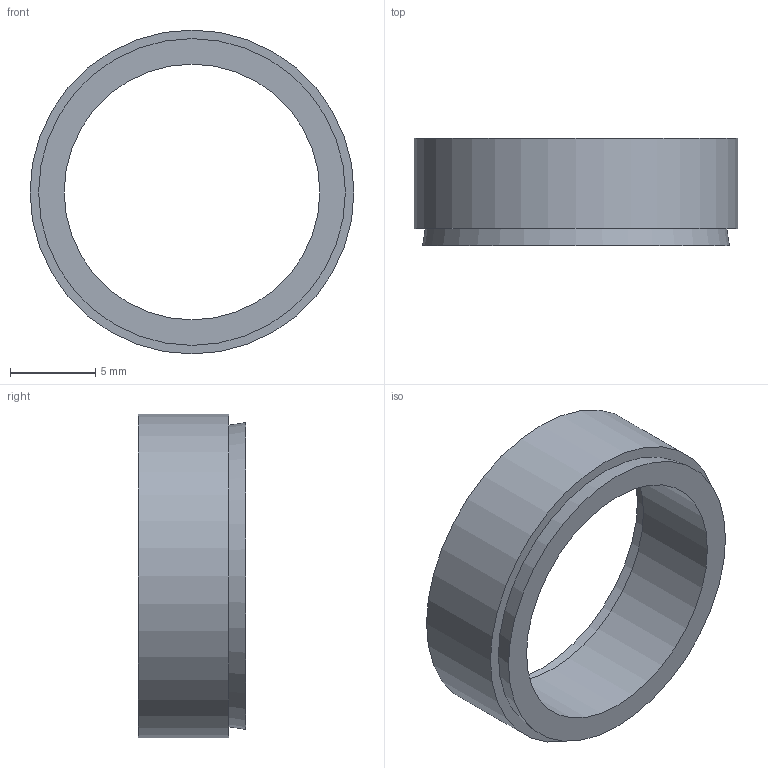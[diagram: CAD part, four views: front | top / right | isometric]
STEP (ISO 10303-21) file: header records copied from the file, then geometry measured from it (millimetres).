
FILE_DESCRIPTION( ( 'Unknown' ), '1' );
FILE_NAME( 'C:/Dokumente und Einstellungen/Sven/Desktop/homepage/cad - homepage/KBS50/KBS 50 - 15 x 19.stp', 'Unknown', ( 'Unknown' ), ( 'Unknown' ), 'XStep 1.0', 'Unknown', ' ' );
FILE_SCHEMA( ( 'automotive_design' ) );
Length unit declared in the file: millimetre
Products named in the file (1): 1
Bounding box: 19 x 6.3 x 19 mm (x, y, z)
Volume: 611 mm3; surface area: 904.8 mm2
Topology: 1 solids, 1 shells, 8 faces, 12 edges, 8 vertices
Faces by surface type: plane 4, cylinder 2, cone 2
Full cylindrical faces by diameter (mm): 15 x1, 19 x1
Entity records: 248 total; most frequent: DIRECTION 34, CARTESIAN_POINT 25, AXIS2_PLACEMENT_3D 17, EDGE_LOOP 16, ORIENTED_EDGE 16, FACE_OUTER_BOUND 10, STYLED_ITEM 8, PRESENTATION_STYLE_ASSIGNMENT 8
